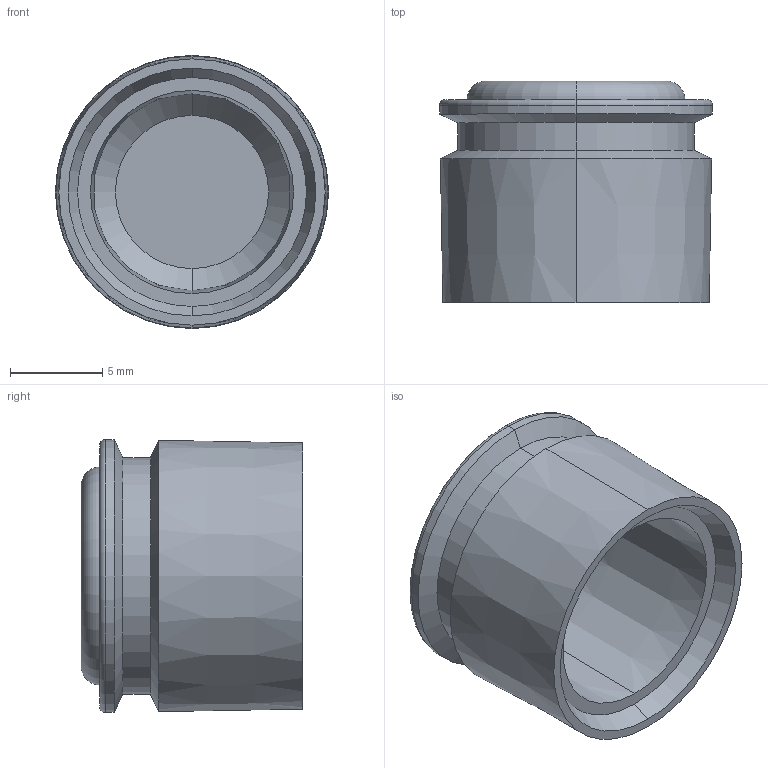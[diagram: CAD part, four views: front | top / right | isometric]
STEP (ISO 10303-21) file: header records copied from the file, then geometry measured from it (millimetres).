
FILE_DESCRIPTION (( 'STEP AP203' ), '1' );
FILE_NAME ('plc-pg-11-00.00.004 Óïëîòíèòåëü (PG11) #sealant (PG11)#.STEP', '2024-04-24T08:05:02', ( '' ), ( '' ), 'SwSTEP 2.0', 'SolidWorks 2021', '' );
FILE_SCHEMA (( 'CONFIG_CONTROL_DESIGN' ));
Length unit declared in the file: millimetre
Products named in the file (1): plc-pg-11-00.00.004 Óïëîòíèòåëü (PG11) #sealant (PG11)#
Bounding box: 14.79 x 12 x 14.79 mm (x, y, z)
Volume: 832.9 mm3; surface area: 1230.3 mm2
Topology: 1 solids, 1 shells, 25 faces, 48 edges, 28 vertices
Faces by surface type: cone 14, plane 5, torus 4, cylinder 2
Entity records: 715 total; most frequent: DIRECTION 132, CARTESIAN_POINT 102, ORIENTED_EDGE 96, AXIS2_PLACEMENT_3D 58, EDGE_CURVE 48, CIRCLE 32, VERTEX_POINT 28, EDGE_LOOP 28
